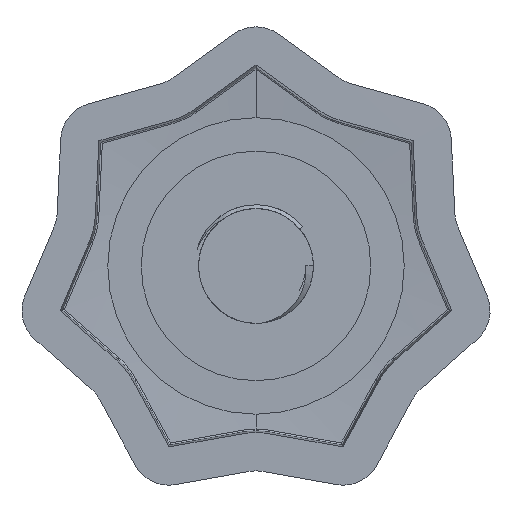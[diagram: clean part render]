
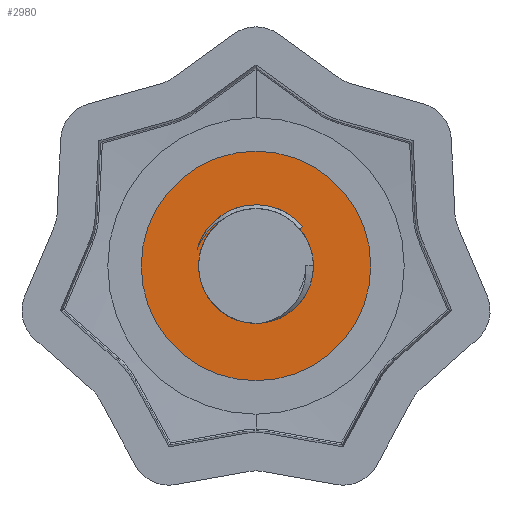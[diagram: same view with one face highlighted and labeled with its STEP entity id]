
A CAD part, front view. The second image highlights one B-rep face of the part: STEP entity #2980.
In plain terms, the highlighted planar face has unit normal (0, -1, 0).
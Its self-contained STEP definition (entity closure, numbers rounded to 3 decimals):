
#107 = FACE_BOUND ( 'NONE', #4270, .T. ) ;
#132 = CIRCLE ( 'NONE', #5304, 6. ) ;
#336 = CARTESIAN_POINT ( 'NONE',  ( 0., -8., 0. ) ) ;
#497 = VERTEX_POINT ( 'NONE', #4043 ) ;
#559 = CARTESIAN_POINT ( 'NONE',  ( -3.083, -8., 0.856 ) ) ;
#663 = AXIS2_PLACEMENT_3D ( 'NONE', #4626, #850, #5264 ) ;
#824 = CARTESIAN_POINT ( 'NONE',  ( 0., -8., 0. ) ) ;
#850 = DIRECTION ( 'NONE',  ( 0., 1., 0. ) ) ;
#961 = DIRECTION ( 'NONE',  ( 0., 0., -1. ) ) ;
#1047 = VERTEX_POINT ( 'NONE', #3467 ) ;
#1258 = CIRCLE ( 'NONE', #663, 3.2 ) ;
#1491 = CARTESIAN_POINT ( 'NONE',  ( 2.298, -8., 1.928 ) ) ;
#1578 = CARTESIAN_POINT ( 'NONE',  ( 0., -8., 0. ) ) ;
#1593 = CARTESIAN_POINT ( 'NONE',  ( 0., -8., 6. ) ) ;
#1635 = DIRECTION ( 'NONE',  ( 0., -1., 0. ) ) ;
#1776 = CARTESIAN_POINT ( 'NONE',  ( -1.661, -8., 2.498 ) ) ;
#1804 = EDGE_CURVE ( 'NONE', #497, #6212, #5228, .T. ) ;
#1856 = EDGE_CURVE ( 'NONE', #1047, #6307, #132, .T. ) ;
#1862 = ORIENTED_EDGE ( 'NONE', *, *, #4723, .F. ) ;
#2199 = DIRECTION ( 'NONE',  ( 0., -1., 0. ) ) ;
#2277 = EDGE_LOOP ( 'NONE', ( #4777, #7461 ) ) ;
#2318 = AXIS2_PLACEMENT_3D ( 'NONE', #3445, #7828, #4094 ) ;
#2332 = DIRECTION ( 'NONE',  ( 0., -1., 0. ) ) ;
#2416 = CARTESIAN_POINT ( 'NONE',  ( -1.977, -8., 2.307 ) ) ;
#2599 = AXIS2_PLACEMENT_3D ( 'NONE', #6112, #2332, #6741 ) ;
#2624 = CIRCLE ( 'NONE', #2599, 6. ) ;
#2625 = ORIENTED_EDGE ( 'NONE', *, *, #5413, .T. ) ;
#2807 = PLANE ( 'NONE',  #4722 ) ;
#2835 = CARTESIAN_POINT ( 'NONE',  ( -3.083, -8., 0.856 ) ) ;
#2980 = ADVANCED_FACE ( 'NONE', ( #6576, #107 ), #2807, .T. ) ;
#3040 = CARTESIAN_POINT ( 'NONE',  ( -2.398, -8., 1.946 ) ) ;
#3288 = VERTEX_POINT ( 'NONE', #7484 ) ;
#3348 = B_SPLINE_CURVE_WITH_KNOTS ( 'NONE', 3,
 ( #1776, #4927, #2416, #6820, #3040, #7436, #3690, #8067, #4343, #559 ),
 .UNSPECIFIED., .F., .F.,
 ( 4, 2, 2, 2, 4 ),
 ( 0.004, 0.005, 0.005, 0.006, 0.006 ),
 .UNSPECIFIED. ) ;
#3404 = VECTOR ( 'NONE', #5858, 1000. ) ;
#3445 = CARTESIAN_POINT ( 'NONE',  ( 0., -8., 0. ) ) ;
#3467 = CARTESIAN_POINT ( 'NONE',  ( 0., -8., -6. ) ) ;
#3690 = CARTESIAN_POINT ( 'NONE',  ( -2.749, -8., 1.516 ) ) ;
#4043 = CARTESIAN_POINT ( 'NONE',  ( 0., -8., -3. ) ) ;
#4094 = DIRECTION ( 'NONE',  ( 0., 0., -1. ) ) ;
#4212 = CIRCLE ( 'NONE', #2318, 3. ) ;
#4270 = EDGE_LOOP ( 'NONE', ( #4373, #6542, #6612, #1862, #2625 ) ) ;
#4343 = CARTESIAN_POINT ( 'NONE',  ( -3.018, -8., 1.031 ) ) ;
#4373 = ORIENTED_EDGE ( 'NONE', *, *, #4627, .T. ) ;
#4626 = CARTESIAN_POINT ( 'NONE',  ( 0., -8., 0. ) ) ;
#4627 = EDGE_CURVE ( 'NONE', #5676, #3288, #1258, .T. ) ;
#4722 = AXIS2_PLACEMENT_3D ( 'NONE', #1578, #2199, #6613 ) ;
#4723 = EDGE_CURVE ( 'NONE', #4818, #497, #4212, .T. ) ;
#4738 = DIRECTION ( 'NONE',  ( 0., -1., 0. ) ) ;
#4777 = ORIENTED_EDGE ( 'NONE', *, *, #5205, .T. ) ;
#4818 = VERTEX_POINT ( 'NONE', #7883 ) ;
#4884 = EDGE_CURVE ( 'NONE', #3288, #6212, #6757, .T. ) ;
#4927 = CARTESIAN_POINT ( 'NONE',  ( -1.822, -8., 2.41 ) ) ;
#5205 = EDGE_CURVE ( 'NONE', #6307, #1047, #2624, .T. ) ;
#5228 = CIRCLE ( 'NONE', #7953, 3. ) ;
#5264 = DIRECTION ( 'NONE',  ( 0., 0., -1. ) ) ;
#5304 = AXIS2_PLACEMENT_3D ( 'NONE', #5432, #1635, #6051 ) ;
#5413 = EDGE_CURVE ( 'NONE', #4818, #5676, #3348, .T. ) ;
#5432 = CARTESIAN_POINT ( 'NONE',  ( 0., -8., 0. ) ) ;
#5676 = VERTEX_POINT ( 'NONE', #2835 ) ;
#5858 = DIRECTION ( 'NONE',  ( -0.766, 0., -0.643 ) ) ;
#6051 = DIRECTION ( 'NONE',  ( 0., 0., -1. ) ) ;
#6112 = CARTESIAN_POINT ( 'NONE',  ( 0., -8., 0. ) ) ;
#6212 = VERTEX_POINT ( 'NONE', #1491 ) ;
#6307 = VERTEX_POINT ( 'NONE', #1593 ) ;
#6542 = ORIENTED_EDGE ( 'NONE', *, *, #4884, .T. ) ;
#6576 = FACE_OUTER_BOUND ( 'NONE', #2277, .T. ) ;
#6612 = ORIENTED_EDGE ( 'NONE', *, *, #1804, .F. ) ;
#6613 = DIRECTION ( 'NONE',  ( 0., 0., -1. ) ) ;
#6741 = DIRECTION ( 'NONE',  ( 0., 0., -1. ) ) ;
#6757 = LINE ( 'NONE', #824, #3404 ) ;
#6820 = CARTESIAN_POINT ( 'NONE',  ( -2.266, -8., 2.074 ) ) ;
#7436 = CARTESIAN_POINT ( 'NONE',  ( -2.639, -8., 1.668 ) ) ;
#7461 = ORIENTED_EDGE ( 'NONE', *, *, #1856, .T. ) ;
#7484 = CARTESIAN_POINT ( 'NONE',  ( 2.451, -8., 2.057 ) ) ;
#7828 = DIRECTION ( 'NONE',  ( 0., -1., 0. ) ) ;
#7883 = CARTESIAN_POINT ( 'NONE',  ( -1.661, -8., 2.498 ) ) ;
#7953 = AXIS2_PLACEMENT_3D ( 'NONE', #336, #4738, #961 ) ;
#8067 = CARTESIAN_POINT ( 'NONE',  ( -2.938, -8., 1.198 ) ) ;
